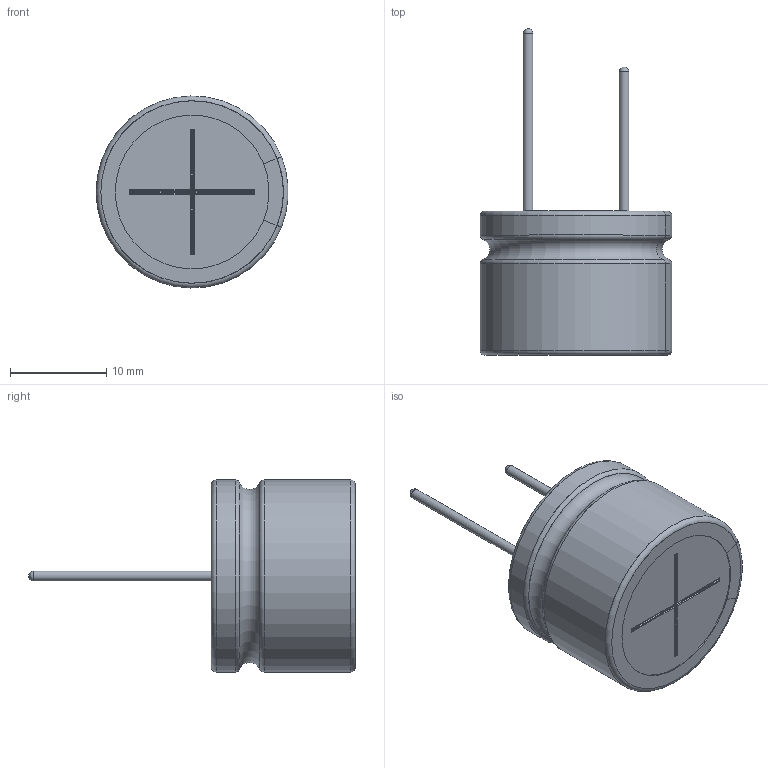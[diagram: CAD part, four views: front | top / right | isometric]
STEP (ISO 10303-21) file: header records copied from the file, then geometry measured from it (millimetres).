
FILE_DESCRIPTION(/* description */ (''),/* implementation_level */ '2;1');
FILE_NAME(/* name */ '20x15_Lead.stp',/* time_stamp */ '2017-09-05T15:06:14+09:00',/* author */ (''),/* organization */ (''),/* preprocessor_version */ 'ST-DEVELOPER v16',/* originating_system */ 'SIEMENS PLM Software NX 11.0',/* authorisation */ '');
FILE_SCHEMA (('AUTOMOTIVE_DESIGN { 1 0 10303 214 3 1 1 1 }'));
Length unit declared in the file: millimetre
Products named in the file (1): 20x15_Lead_0
Bounding box: 19.97 x 34 x 20 mm (x, y, z)
Volume: 4605.2 mm3; surface area: 4011.4 mm2
Topology: 3 solids, 3 shells, 100 faces, 252 edges, 160 vertices
Faces by surface type: cylinder 36, plane 28, torus 26, sphere 6, bspline 4
Full cylindrical faces by diameter (mm): 1 x2, 19.8 x2
Entity records: 3386 total; most frequent: CARTESIAN_POINT 605, DIRECTION 566, ORIENTED_EDGE 468, AXIS2_PLACEMENT_3D 235, EDGE_CURVE 234, VERTEX_POINT 154, CIRCLE 130, EDGE_LOOP 114
